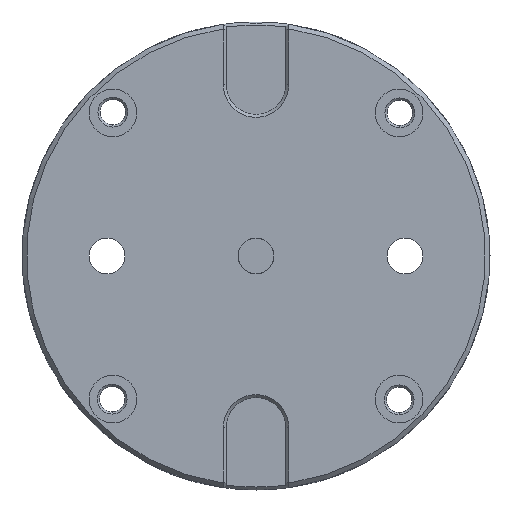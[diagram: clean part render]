
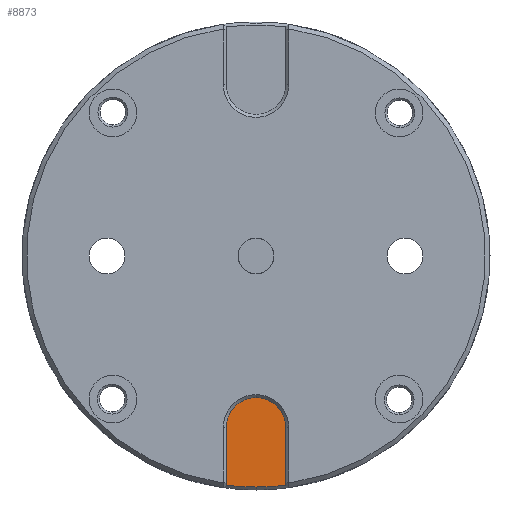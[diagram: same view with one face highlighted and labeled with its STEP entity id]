
A CAD part, front view. The second image highlights one B-rep face of the part: STEP entity #8873.
In plain terms, the highlighted planar face has unit normal (0, -1, 0).
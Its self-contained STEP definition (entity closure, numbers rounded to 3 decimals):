
#311 = ORIENTED_EDGE ( 'NONE', *, *, #3264, .T. ) ;
#390 = ORIENTED_EDGE ( 'NONE', *, *, #9477, .F. ) ;
#505 = CARTESIAN_POINT ( 'NONE',  ( 10., 4., -76.852 ) ) ;
#1125 = EDGE_CURVE ( 'NONE', #2233, #8202, #1931, .T. ) ;
#1361 = DIRECTION ( 'NONE',  ( 0., 1., 0. ) ) ;
#1530 = AXIS2_PLACEMENT_3D ( 'NONE', #2114, #4658, #10672 ) ;
#1931 = CIRCLE ( 'NONE', #9430, 77.5 ) ;
#2114 = CARTESIAN_POINT ( 'NONE',  ( 0., 4., -57.5 ) ) ;
#2150 = CARTESIAN_POINT ( 'NONE',  ( 0., 4., 0. ) ) ;
#2233 = VERTEX_POINT ( 'NONE', #3129 ) ;
#2412 = VERTEX_POINT ( 'NONE', #6932 ) ;
#2569 = CIRCLE ( 'NONE', #7290, 77.5 ) ;
#3007 = DIRECTION ( 'NONE',  ( 0., 0., -1. ) ) ;
#3085 = VECTOR ( 'NONE', #9902, 1000. ) ;
#3101 = CARTESIAN_POINT ( 'NONE',  ( 0., 4., -57.5 ) ) ;
#3129 = CARTESIAN_POINT ( 'NONE',  ( -10., 4., -76.852 ) ) ;
#3234 = AXIS2_PLACEMENT_3D ( 'NONE', #3101, #10923, #5652 ) ;
#3264 = EDGE_CURVE ( 'NONE', #8202, #5487, #2569, .T. ) ;
#3406 = DIRECTION ( 'NONE',  ( 0., -1., 0. ) ) ;
#3876 = DIRECTION ( 'NONE',  ( 0., 0., 1. ) ) ;
#4658 = DIRECTION ( 'NONE',  ( 0., 1., 0. ) ) ;
#4717 = VECTOR ( 'NONE', #3876, 1000. ) ;
#4854 = DIRECTION ( 'NONE',  ( 0., 0., -1. ) ) ;
#5069 = ORIENTED_EDGE ( 'NONE', *, *, #9334, .F. ) ;
#5099 = CARTESIAN_POINT ( 'NONE',  ( 0., 4., -77.5 ) ) ;
#5487 = VERTEX_POINT ( 'NONE', #505 ) ;
#5652 = DIRECTION ( 'NONE',  ( 0., 0., -1. ) ) ;
#6438 = CARTESIAN_POINT ( 'NONE',  ( 0., 4., -57.5 ) ) ;
#6932 = CARTESIAN_POINT ( 'NONE',  ( -10., 4., -57.5 ) ) ;
#6934 = EDGE_LOOP ( 'NONE', ( #8562, #7016, #311, #10427, #5069, #390 ) ) ;
#6998 = FACE_OUTER_BOUND ( 'NONE', #6934, .T. ) ;
#7016 = ORIENTED_EDGE ( 'NONE', *, *, #1125, .T. ) ;
#7290 = AXIS2_PLACEMENT_3D ( 'NONE', #2150, #7362, #3007 ) ;
#7362 = DIRECTION ( 'NONE',  ( 0., -1., 0. ) ) ;
#7382 = CIRCLE ( 'NONE', #1530, 10. ) ;
#8038 = AXIS2_PLACEMENT_3D ( 'NONE', #6438, #1361, #4854 ) ;
#8202 = VERTEX_POINT ( 'NONE', #5099 ) ;
#8329 = CIRCLE ( 'NONE', #3234, 10. ) ;
#8531 = CARTESIAN_POINT ( 'NONE',  ( 0., 4., 0. ) ) ;
#8562 = ORIENTED_EDGE ( 'NONE', *, *, #8906, .F. ) ;
#8564 = VERTEX_POINT ( 'NONE', #9412 ) ;
#8873 = ADVANCED_FACE ( 'NONE', ( #6998 ), #9096, .F. ) ;
#8906 = EDGE_CURVE ( 'NONE', #2233, #2412, #10757, .T. ) ;
#9045 = CARTESIAN_POINT ( 'NONE',  ( 10., 4., -57.5 ) ) ;
#9096 = PLANE ( 'NONE',  #8038 ) ;
#9334 = EDGE_CURVE ( 'NONE', #9610, #8564, #7382, .T. ) ;
#9412 = CARTESIAN_POINT ( 'NONE',  ( 10., 4., -57.5 ) ) ;
#9430 = AXIS2_PLACEMENT_3D ( 'NONE', #8531, #3406, #10263 ) ;
#9477 = EDGE_CURVE ( 'NONE', #2412, #9610, #8329, .T. ) ;
#9610 = VERTEX_POINT ( 'NONE', #10365 ) ;
#9902 = DIRECTION ( 'NONE',  ( 0., 0., -1. ) ) ;
#10179 = LINE ( 'NONE', #9045, #3085 ) ;
#10263 = DIRECTION ( 'NONE',  ( 0., 0., -1. ) ) ;
#10365 = CARTESIAN_POINT ( 'NONE',  ( 0., 4., -47.5 ) ) ;
#10427 = ORIENTED_EDGE ( 'NONE', *, *, #10774, .F. ) ;
#10672 = DIRECTION ( 'NONE',  ( 0., 0., -1. ) ) ;
#10757 = LINE ( 'NONE', #10822, #4717 ) ;
#10774 = EDGE_CURVE ( 'NONE', #8564, #5487, #10179, .T. ) ;
#10822 = CARTESIAN_POINT ( 'NONE',  ( -10., 4., -77.86 ) ) ;
#10923 = DIRECTION ( 'NONE',  ( 0., 1., 0. ) ) ;
